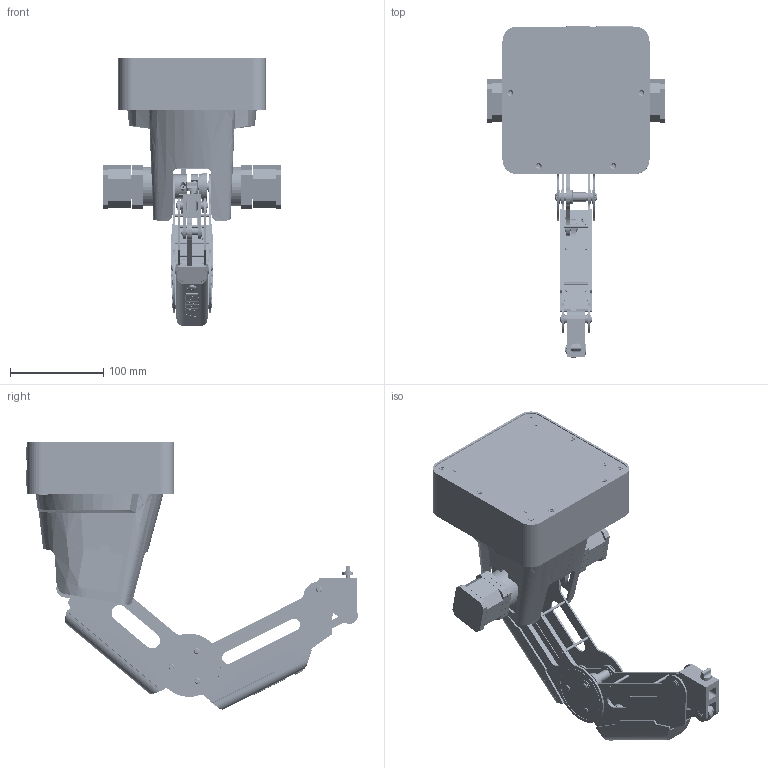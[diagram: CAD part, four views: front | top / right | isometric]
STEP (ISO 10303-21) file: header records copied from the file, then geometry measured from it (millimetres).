
FILE_DESCRIPTION((''),'2;1');
FILE_NAME('0_DOBOT230_FOR_ASSEMBLY_ASM','2018-04-16T10:15:18',('jijunhao'),(''),'CREO PARAMETRIC BY PTC INC, 2017260','CREO PARAMETRIC BY PTC INC, 2017260','');
FILE_SCHEMA(('CONFIG_CONTROL_DESIGN'));
Products named in the file (101): 0001; 0002; 000; M3X60001; 00; 3MM_8000; 0005; M3X80001; _ASM0001_ASM; _ASM0002_ASM; 0006; _000; 0007; 2MM000; 6120001; 40001; A0001; 0009; __0001; 0008_ASM; 0010; 2100001; 80001; __0002; _2300001; 0011_ASM; 0012; _ASM0003_ASM; 0013; 0014; M4X80001; _ASM0004_ASM; 0015; 0016; _ASM0005_ASM; M3X100001; 0019; __0003; __0004; 1MM000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
Assembly tree (256 placements, depth 4):
  0_DOBOT230_FOR_ASSEMBLY_ASM
    _ASM0001_ASM
      0001
      0002
      000
      M3X60001  x2
      00
      3MM_8000  x6
      0005
      M3X80001  x2
    _ASM0002_ASM
    _ASM0003_ASM
      0006
      _000
      0007
      2MM000
      6120001
      40001
      A0001
      0008_ASM
        0009
        0007  x2
        _000  x2
        __0001
        40001  x2
        6120001  x2
        2MM000  x2
      0010
      0011_ASM
        2100001
        6120001  x3
        80001
        __0002
        2MM000
        40001
        _2300001
      0012
      M3X80001  x2
    _ASM0004_ASM
      0013
      0014
      M4X80001  x4
      0005
      M3X80001  x6
      0012  x2
    _ASM0005_ASM
      0015
      0016
      M4X80001  x4
      0005
      M3X80001  x2
    M3X100001  x9
    0017_ASM
      00
      0019  x3
      __0003
      0007  x3
      2MM000  x2
      __0004
      1MM000
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Bounding box: 192 x 356.48 x 287.77 mm (x, y, z)
Volume: 1029749 mm3; surface area: 688773.7 mm2
Topology: 248 solids, 248 shells, 5753 faces, 14091 edges, 9141 vertices
Faces by surface type: plane 2960, cylinder 2084, cone 479, bspline 113, sphere 64, torus 42, revolution 6, extrusion 5
Entity records: 126548 total; most frequent: CARTESIAN_POINT 27752, DIRECTION 21038, ORIENTED_EDGE 19508, EDGE_CURVE 9754, AXIS2_PLACEMENT_3D 7572, VERTEX_POINT 6363, VECTOR 5888, LINE 5883
